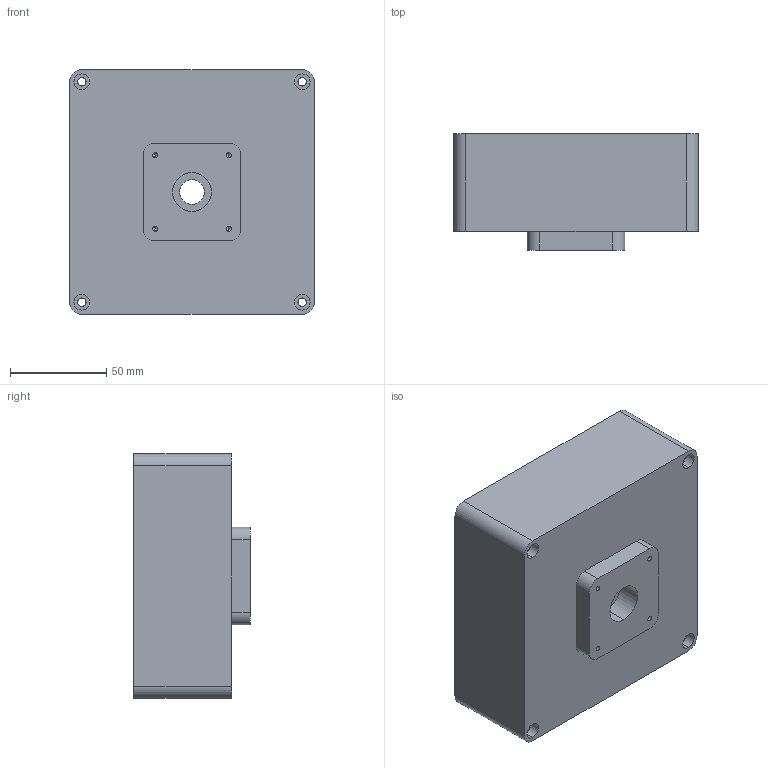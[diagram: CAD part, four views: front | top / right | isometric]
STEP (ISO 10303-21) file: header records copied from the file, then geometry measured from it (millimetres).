
FILE_DESCRIPTION (( 'STEP AP214' ), '1' );
FILE_NAME ('Fictiv TV Shell.STEP', '2022-06-05T19:46:31', ( '' ), ( '' ), 'SwSTEP 2.0', 'SolidWorks 2021', '' );
FILE_SCHEMA (( 'AUTOMOTIVE_DESIGN' ));
Length unit declared in the file: millimetre
Products named in the file (1): Fictiv TV Shell
Bounding box: 127 x 60.5 x 127 mm (x, y, z)
Volume: 256863.2 mm3; surface area: 82744.7 mm2
Topology: 1 solids, 1 shells, 69 faces, 172 edges, 108 vertices
Faces by surface type: cylinder 40, plane 21, cone 8
Entity records: 2168 total; most frequent: DIRECTION 384, CARTESIAN_POINT 342, ORIENTED_EDGE 328, EDGE_CURVE 164, AXIS2_PLACEMENT_3D 150, VERTEX_POINT 108, EDGE_LOOP 90, VECTOR 84
